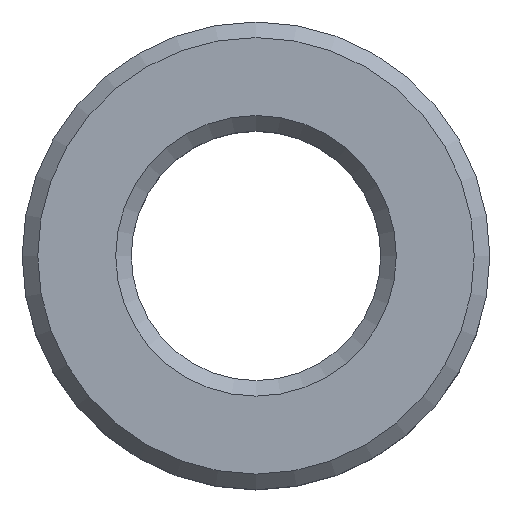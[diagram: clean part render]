
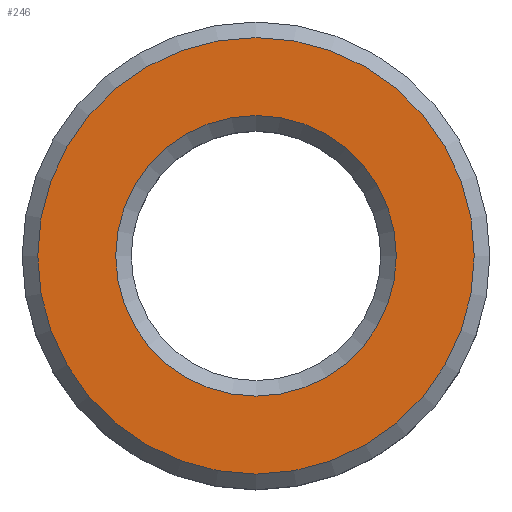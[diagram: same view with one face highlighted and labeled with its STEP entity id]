
A CAD part, top view. The second image highlights one B-rep face of the part: STEP entity #246.
In plain terms, the highlighted planar face has unit normal (0, 0, 1).
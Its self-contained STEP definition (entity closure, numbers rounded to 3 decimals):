
#66 = CONICAL_SURFACE('',#67,3.,0.785);
#67 = AXIS2_PLACEMENT_3D('',#68,#69,#70);
#68 = CARTESIAN_POINT('',(0.,0.,1.05));
#69 = DIRECTION('',(-0.,-0.,-1.));
#70 = DIRECTION('',(1.,0.,0.));
#163 = VERTEX_POINT('',#164);
#164 = CARTESIAN_POINT('',(2.8,0.,1.25));
#185 = EDGE_CURVE('',#163,#163,#186,.T.);
#186 = SURFACE_CURVE('',#187,(#192,#199),.PCURVE_S1.);
#187 = CIRCLE('',#188,2.8);
#188 = AXIS2_PLACEMENT_3D('',#189,#190,#191);
#189 = CARTESIAN_POINT('',(0.,0.,1.25));
#190 = DIRECTION('',(0.,0.,1.));
#191 = DIRECTION('',(1.,0.,-0.));
#192 = PCURVE('',#66,#193);
#193 = DEFINITIONAL_REPRESENTATION('',(#194),#198);
#194 = LINE('',#195,#196);
#195 = CARTESIAN_POINT('',(-0.,-0.2));
#196 = VECTOR('',#197,1.);
#197 = DIRECTION('',(-1.,-0.));
#198 = ( GEOMETRIC_REPRESENTATION_CONTEXT(2) 
PARAMETRIC_REPRESENTATION_CONTEXT() REPRESENTATION_CONTEXT('2D SPACE',''
  ) );
#199 = PCURVE('',#200,#205);
#200 = PLANE('',#201);
#201 = AXIS2_PLACEMENT_3D('',#202,#203,#204);
#202 = CARTESIAN_POINT('',(0.,0.,1.25));
#203 = DIRECTION('',(0.,0.,1.));
#204 = DIRECTION('',(1.,0.,-0.));
#205 = DEFINITIONAL_REPRESENTATION('',(#206),#210);
#206 = CIRCLE('',#207,2.8);
#207 = AXIS2_PLACEMENT_2D('',#208,#209);
#208 = CARTESIAN_POINT('',(0.,0.));
#209 = DIRECTION('',(1.,0.));
#210 = ( GEOMETRIC_REPRESENTATION_CONTEXT(2) 
PARAMETRIC_REPRESENTATION_CONTEXT() REPRESENTATION_CONTEXT('2D SPACE',''
  ) );
#246 = ADVANCED_FACE('',(#247,#250),#200,.T.);
#247 = FACE_BOUND('',#248,.T.);
#248 = EDGE_LOOP('',(#249));
#249 = ORIENTED_EDGE('',*,*,#185,.T.);
#250 = FACE_BOUND('',#251,.T.);
#251 = EDGE_LOOP('',(#252));
#252 = ORIENTED_EDGE('',*,*,#253,.F.);
#253 = EDGE_CURVE('',#254,#254,#256,.T.);
#254 = VERTEX_POINT('',#255);
#255 = CARTESIAN_POINT('',(1.8,0.,1.25));
#256 = SURFACE_CURVE('',#257,(#262,#269),.PCURVE_S1.);
#257 = CIRCLE('',#258,1.8);
#258 = AXIS2_PLACEMENT_3D('',#259,#260,#261);
#259 = CARTESIAN_POINT('',(0.,0.,1.25));
#260 = DIRECTION('',(0.,0.,1.));
#261 = DIRECTION('',(1.,0.,-0.));
#262 = PCURVE('',#200,#263);
#263 = DEFINITIONAL_REPRESENTATION('',(#264),#268);
#264 = CIRCLE('',#265,1.8);
#265 = AXIS2_PLACEMENT_2D('',#266,#267);
#266 = CARTESIAN_POINT('',(0.,0.));
#267 = DIRECTION('',(1.,0.));
#268 = ( GEOMETRIC_REPRESENTATION_CONTEXT(2) 
PARAMETRIC_REPRESENTATION_CONTEXT() REPRESENTATION_CONTEXT('2D SPACE',''
  ) );
#269 = PCURVE('',#270,#275);
#270 = CONICAL_SURFACE('',#271,1.6,0.785);
#271 = AXIS2_PLACEMENT_3D('',#272,#273,#274);
#272 = CARTESIAN_POINT('',(0.,0.,1.05));
#273 = DIRECTION('',(0.,0.,1.));
#274 = DIRECTION('',(1.,0.,-0.));
#275 = DEFINITIONAL_REPRESENTATION('',(#276),#280);
#276 = LINE('',#277,#278);
#277 = CARTESIAN_POINT('',(-0.,0.2));
#278 = VECTOR('',#279,1.);
#279 = DIRECTION('',(1.,-0.));
#280 = ( GEOMETRIC_REPRESENTATION_CONTEXT(2) 
PARAMETRIC_REPRESENTATION_CONTEXT() REPRESENTATION_CONTEXT('2D SPACE',''
  ) );
